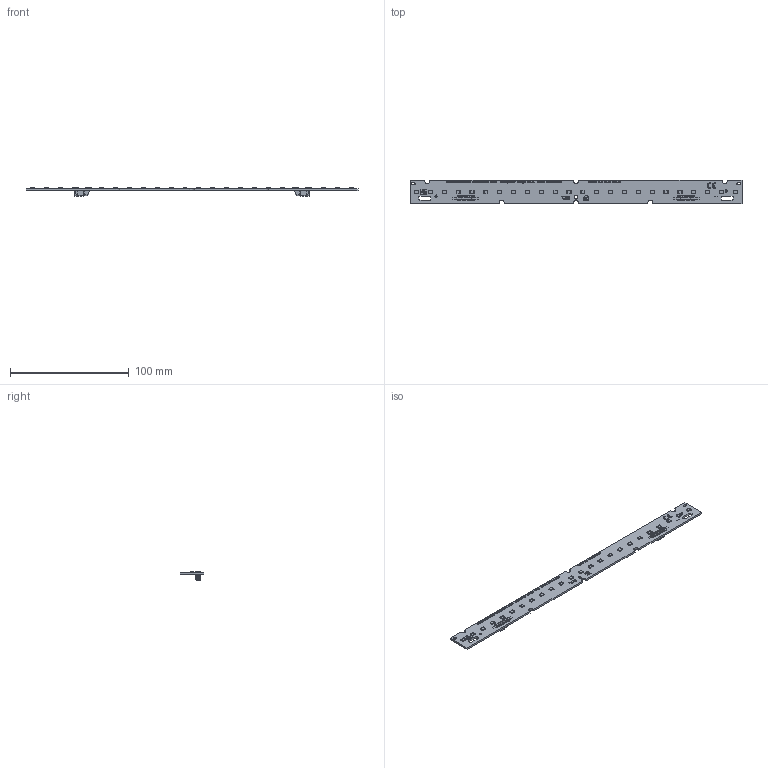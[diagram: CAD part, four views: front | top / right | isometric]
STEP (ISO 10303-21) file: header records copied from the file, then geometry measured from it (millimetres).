
FILE_DESCRIPTION(('Creo Elements/Direct Modeling STEP Export'),'2;1');
FILE_NAME('3D-Model_WU-M-735-BC.stp','2024-11-27T12:08:11',(''),(''),'PTC Creo Elements/Direct Modeling STEP processor for AP214 (Solid Model)','PTC Creo Elements/Direct Modeling 19.0E 27-Jun-2016 (C) Parametric Technology GmbH','');
FILE_SCHEMA(('AUTOMOTIVE_DESIGN { 1 0 10303 214 1 1 1 1 }'));
Length unit declared in the file: millimetre
Products named in the file (364): _____STEP.PRT.9; _____STEP.PRT.8; _____STEP.PRT.7; _____STEP.PRT.6; _____STEP.PRT.5; _____STEP.PRT.4; _____STEP.PRT.3; _____STEP.PRT.23; _____STEP.PRT.22; _____STEP.PRT.21; _____STEP.PRT.20; _____STEP.PRT.2; _____STEP.PRT.19; _____STEP.PRT.18; _____STEP.PRT.17; _____STEP.PRT.16; _____STEP.PRT.15; _____STEP.PRT.14; _____STEP.PRT.13; _____STEP.PRT.12; _____STEP.PRT.11; _____STEP.PRT.10; _____STEP.PRT.1.1; _____STEP.PRT.1; _____STEP.PRT; _____-0_STEP.PRT.9; _____-0_STEP.PRT.8; _____-0_STEP.PRT.7; _____-0_STEP.PRT.6; _____-0_STEP.PRT.5; _____-0_STEP.PRT.4; _____-0_STEP.PRT.3; _____-0_STEP.PRT.23; _____-0_STEP.PRT.22; _____-0_STEP.PRT.21; _____-0_STEP.PRT.20; _____-0_STEP.PRT.2; _____-0_STEP.PRT.19; _____-0_STEP.PRT.18; _____-0_STEP.PRT.17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
Assembly tree (132 placements, depth 2):
  _____STEP.PRT.9
    _____STEP.PRT.9
  _____STEP.PRT.8
    _____STEP.PRT.8
  _____STEP.PRT.7
    _____STEP.PRT.7
  _____STEP.PRT.6
    _____STEP.PRT.6
  _____STEP.PRT.5
    _____STEP.PRT.5
Bounding box: 279 x 20 x 7.4 mm (x, y, z)
Volume: 8956.6 mm3; surface area: 15165 mm2
Topology: 206 solids, 310 shells, 9667 faces, 26498 edges, 17419 vertices
Faces by surface type: plane 7447, cylinder 2208, cone 8, bspline 4
Entity records: 387704 total; most frequent: CARTESIAN_POINT 53870, ORIENTED_EDGE 53100, DIRECTION 49749, EDGE_CURVE 26498, VECTOR 21757, LINE 21757, VERTEX_POINT 17419, AXIS2_PLACEMENT_3D 13996
